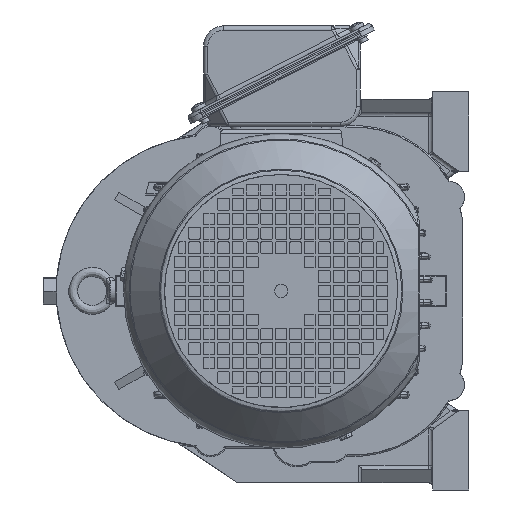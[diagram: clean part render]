
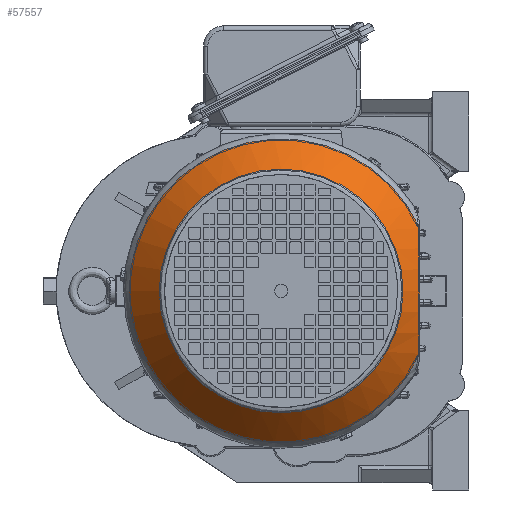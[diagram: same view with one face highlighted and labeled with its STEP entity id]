
A CAD part, left-side view. The second image highlights one B-rep face of the part: STEP entity #57557.
In plain terms, the highlighted conical face has half-angle 41.906 degrees and reference radius 105.414 mm.
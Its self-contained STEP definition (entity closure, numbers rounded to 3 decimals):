
#248 = CARTESIAN_POINT ( 'NONE',  ( -1431.431, -659.591, -11143.046 ) ) ;
#1181 = CARTESIAN_POINT ( 'NONE',  ( -1429.634, -659.591, -11157.017 ) ) ;
#10554 = CARTESIAN_POINT ( 'NONE',  ( -1420.941, -563.591, -11139.324 ) ) ;
#13111 = CARTESIAN_POINT ( 'NONE',  ( -1423.971, -659.591, -11175.948 ) ) ;
#14940 = CARTESIAN_POINT ( 'NONE',  ( -1427.648, -659.591, -11113.327 ) ) ;
#20946 = CARTESIAN_POINT ( 'NONE',  ( -1420.941, -659.591, -11182.867 ) ) ;
#21307 = DIRECTION ( 'NONE',  ( 1., 0., 0. ) ) ;
#25109 = CARTESIAN_POINT ( 'NONE',  ( -1429.974, -659.591, -11123.402 ) ) ;
#25978 = CARTESIAN_POINT ( 'NONE',  ( -1422.522, -659.591, -11099.215 ) ) ;
#26897 = CARTESIAN_POINT ( 'NONE',  ( -1428.813, -659.591, -11160.71 ) ) ;
#26934 = AXIS2_PLACEMENT_3D ( 'NONE', #131829, #21307, #103364 ) ;
#30799 = EDGE_LOOP ( 'NONE', ( #102253, #107034 ) ) ;
#49251 = FACE_BOUND ( 'NONE', #162087, .T. ) ;
#49744 = VERTEX_POINT ( 'NONE', #162199 ) ;
#50386 = AXIS2_PLACEMENT_3D ( 'NONE', #10554, #80650, #133991 ) ;
#54557 = CARTESIAN_POINT ( 'NONE',  ( -1431.43, -659.591, -11135.572 ) ) ;
#56367 = CARTESIAN_POINT ( 'NONE',  ( -1430.169, -659.591, -11154.227 ) ) ;
#56983 = CARTESIAN_POINT ( 'NONE',  ( -1420.941, -659.591, -11095.78 ) ) ;
#57285 = CARTESIAN_POINT ( 'NONE',  ( -1429.031, -659.591, -11159.792 ) ) ;
#57557 = ADVANCED_FACE ( 'NONE', ( #95338, #49251 ), #76924, .T. ) ;
#68443 = CARTESIAN_POINT ( 'NONE',  ( -1420.941, -659.591, -11095.78 ) ) ;
#69348 = CARTESIAN_POINT ( 'NONE',  ( -1420.941, -659.591, -11182.867 ) ) ;
#76924 = CONICAL_SURFACE ( 'NONE', #50386, 105.414, 0.731 ) ;
#77660 = VERTEX_POINT ( 'NONE', #20946 ) ;
#80650 = DIRECTION ( 'NONE',  ( 1., 0., 0. ) ) ;
#83224 = CARTESIAN_POINT ( 'NONE',  ( -1431.186, -659.591, -11131.829 ) ) ;
#89719 = EDGE_CURVE ( 'NONE', #49744, #49744, #123952, .T. ) ;
#95338 = FACE_OUTER_BOUND ( 'NONE', #30799, .T. ) ;
#97007 = CARTESIAN_POINT ( 'NONE',  ( -1429.442, -659.591, -11157.946 ) ) ;
#98851 = DIRECTION ( 'NONE',  ( 1., 0., 0. ) ) ;
#102253 = ORIENTED_EDGE ( 'NONE', *, *, #144558, .F. ) ;
#103364 = DIRECTION ( 'NONE',  ( 0., -1., 0. ) ) ;
#107034 = ORIENTED_EDGE ( 'NONE', *, *, #145932, .F. ) ;
#107348 = B_SPLINE_CURVE_WITH_KNOTS ( 'NONE', 3,
 ( #68443, #25978, #110760, #152246, #14940, #166168, #153153, #25109, #113488, #180821, #123601, #83224, #54557, #248, #169823, #167997, #56367, #1181, #97007, #57285, #26897, #179921, #139315, #13111, #168898, #69348 ),
 .UNSPECIFIED., .F., .F.,
 ( 4, 2, 2, 2, 2, 2, 2, 2, 2, 2, 2, 2, 4 ),
 ( 0., 0.011, 0.022, 0.028, 0.031, 0.034, 0.045, 0.056, 0.062, 0.065, 0.067, 0.079, 0.09 ),
 .UNSPECIFIED. ) ;
#110760 = CARTESIAN_POINT ( 'NONE',  ( -1423.968, -659.591, -11102.692 ) ) ;
#113488 = CARTESIAN_POINT ( 'NONE',  ( -1430.139, -659.591, -11124.333 ) ) ;
#123601 = CARTESIAN_POINT ( 'NONE',  ( -1430.578, -659.591, -11127.142 ) ) ;
#123952 = CIRCLE ( 'NONE', #26934, 84.49 ) ;
#124332 = CIRCLE ( 'NONE', #156807, 105.414 ) ;
#124471 = VERTEX_POINT ( 'NONE', #56983 ) ;
#131829 = CARTESIAN_POINT ( 'NONE',  ( -1444.256, -563.591, -11139.324 ) ) ;
#133991 = DIRECTION ( 'NONE',  ( 0., -1., 0. ) ) ;
#137541 = DIRECTION ( 'NONE',  ( 0., -1., 0. ) ) ;
#139315 = CARTESIAN_POINT ( 'NONE',  ( -1426.54, -659.591, -11168.874 ) ) ;
#144558 = EDGE_CURVE ( 'NONE', #124471, #77660, #107348, .T. ) ;
#145932 = EDGE_CURVE ( 'NONE', #77660, #124471, #124332, .T. ) ;
#152246 = CARTESIAN_POINT ( 'NONE',  ( -1426.531, -659.591, -11109.748 ) ) ;
#153153 = CARTESIAN_POINT ( 'NONE',  ( -1429.439, -659.591, -11120.624 ) ) ;
#156807 = AXIS2_PLACEMENT_3D ( 'NONE', #167104, #98851, #137541 ) ;
#160430 = ORIENTED_EDGE ( 'NONE', *, *, #89719, .T. ) ;
#162087 = EDGE_LOOP ( 'NONE', ( #160430 ) ) ;
#162199 = CARTESIAN_POINT ( 'NONE',  ( -1444.256, -648.082, -11139.324 ) ) ;
#166168 = CARTESIAN_POINT ( 'NONE',  ( -1429.029, -659.591, -11118.788 ) ) ;
#167104 = CARTESIAN_POINT ( 'NONE',  ( -1420.941, -563.591, -11139.324 ) ) ;
#167997 = CARTESIAN_POINT ( 'NONE',  ( -1430.468, -659.591, -11152.366 ) ) ;
#168898 = CARTESIAN_POINT ( 'NONE',  ( -1422.523, -659.591, -11179.43 ) ) ;
#169823 = CARTESIAN_POINT ( 'NONE',  ( -1431.188, -659.591, -11146.778 ) ) ;
#179921 = CARTESIAN_POINT ( 'NONE',  ( -1427.66, -659.591, -11165.283 ) ) ;
#180821 = CARTESIAN_POINT ( 'NONE',  ( -1430.441, -659.591, -11126.203 ) ) ;
